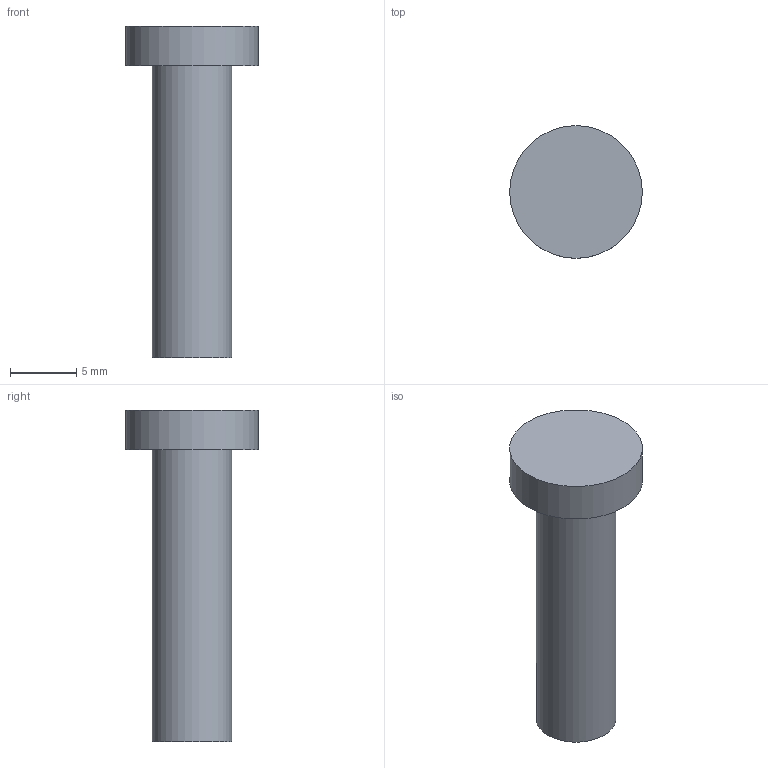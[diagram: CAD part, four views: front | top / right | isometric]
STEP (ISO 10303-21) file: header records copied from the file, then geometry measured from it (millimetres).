
FILE_DESCRIPTION(('Open CASCADE Model'),'2;1');
FILE_NAME('Open CASCADE Shape Model','2026-09-20T04:25:33',('Author'),( 'Open CASCADE'),'Open CASCADE STEP processor 7.9','Open CASCADE 7.9' ,'Unknown');
FILE_SCHEMA(('AUTOMOTIVE_DESIGN { 1 0 10303 214 1 1 1 1 }'));
Length unit declared in the file: millimetre
Products named in the file (1): Open CASCADE STEP translator 7.9 6
Bounding box: 10 x 10 x 25 mm (x, y, z)
Volume: 857.7 mm3; surface area: 666 mm2
Topology: 1 solids, 1 shells, 5 faces, 6 edges, 4 vertices
Faces by surface type: plane 3, cylinder 2
Full cylindrical faces by diameter (mm): 6 x1, 10 x1
Entity records: 192 total; most frequent: DIRECTION 34, CARTESIAN_POINT 28, ORIENTED_EDGE 12, PCURVE 12, DEFINITIONAL_REPRESENTATION 12, AXIS2_PLACEMENT_3D 10, LINE 10, VECTOR 10
